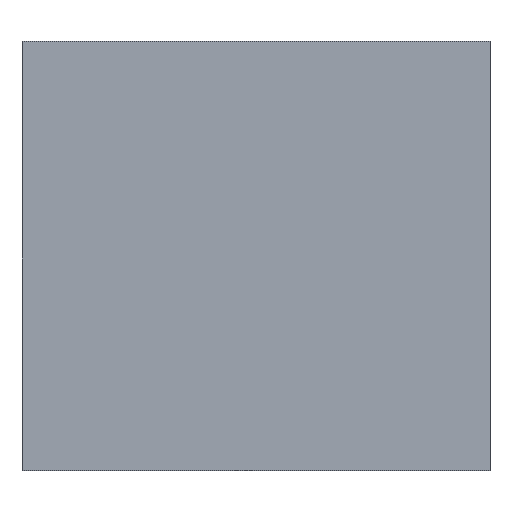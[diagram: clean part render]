
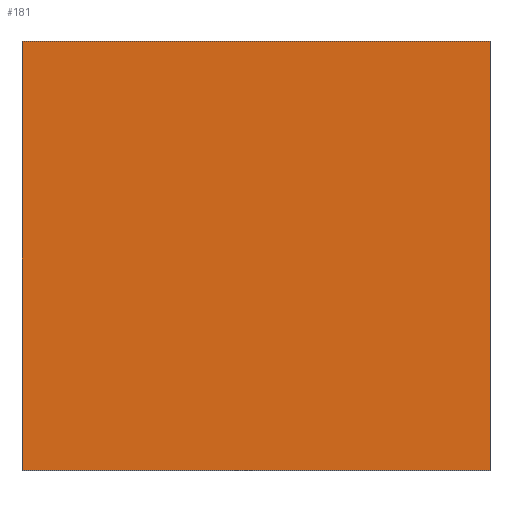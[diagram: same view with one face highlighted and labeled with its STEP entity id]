
A CAD part, top view. The second image highlights one B-rep face of the part: STEP entity #181.
In plain terms, the highlighted planar face has unit normal (0, 0, 1).
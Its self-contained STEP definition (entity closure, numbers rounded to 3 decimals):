
#52 = VERTEX_POINT('',#53);
#53 = CARTESIAN_POINT('',(0.,0.,0.411));
#59 = EDGE_CURVE('',#52,#60,#62,.T.);
#60 = VERTEX_POINT('',#61);
#61 = CARTESIAN_POINT('',(0.,22.,0.411));
#62 = LINE('',#63,#64);
#63 = CARTESIAN_POINT('',(0.,0.,0.411));
#64 = VECTOR('',#65,1.);
#65 = DIRECTION('',(0.,1.,0.));
#90 = EDGE_CURVE('',#60,#91,#93,.T.);
#91 = VERTEX_POINT('',#92);
#92 = CARTESIAN_POINT('',(24.,22.,0.411));
#93 = LINE('',#94,#95);
#94 = CARTESIAN_POINT('',(0.,22.,0.411));
#95 = VECTOR('',#96,1.);
#96 = DIRECTION('',(1.,0.,0.));
#121 = EDGE_CURVE('',#91,#122,#124,.T.);
#122 = VERTEX_POINT('',#123);
#123 = CARTESIAN_POINT('',(24.,0.,0.411));
#124 = LINE('',#125,#126);
#125 = CARTESIAN_POINT('',(24.,22.,0.411));
#126 = VECTOR('',#127,1.);
#127 = DIRECTION('',(0.,-1.,0.));
#152 = EDGE_CURVE('',#122,#52,#153,.T.);
#153 = LINE('',#154,#155);
#154 = CARTESIAN_POINT('',(24.,0.,0.411));
#155 = VECTOR('',#156,1.);
#156 = DIRECTION('',(-1.,0.,0.));
#181 = ADVANCED_FACE('',(#182),#188,.F.);
#182 = FACE_BOUND('',#183,.F.);
#183 = EDGE_LOOP('',(#184,#185,#186,#187));
#184 = ORIENTED_EDGE('',*,*,#59,.T.);
#185 = ORIENTED_EDGE('',*,*,#90,.T.);
#186 = ORIENTED_EDGE('',*,*,#121,.T.);
#187 = ORIENTED_EDGE('',*,*,#152,.T.);
#188 = PLANE('',#189);
#189 = AXIS2_PLACEMENT_3D('',#190,#191,#192);
#190 = CARTESIAN_POINT('',(12.,11.,0.411));
#191 = DIRECTION('',(-0.,-0.,-1.));
#192 = DIRECTION('',(-1.,0.,0.));
